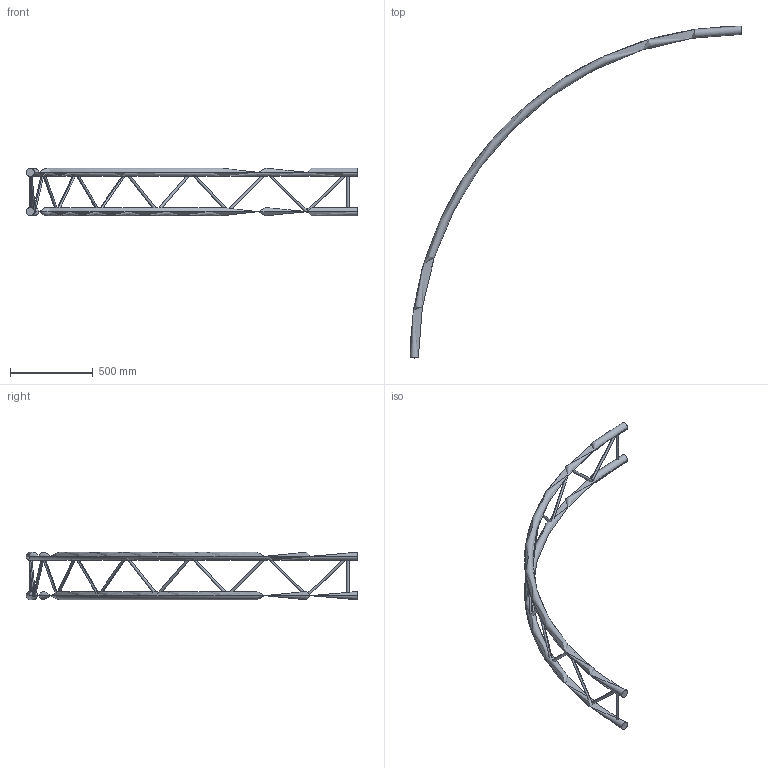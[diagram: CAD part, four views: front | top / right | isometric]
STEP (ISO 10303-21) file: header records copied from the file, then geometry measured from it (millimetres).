
FILE_DESCRIPTION (( 'STEP AP203' ), '1' );
FILE_NAME ('EXC29400V.STEP', '2009-10-26T09:21:07', ( 'CEDIA' ), ( 'CEDIA INDUSTRIE' ), 'SwSTEP 2.0', 'SolidWorks 2009', '' );
FILE_SCHEMA (( 'CONFIG_CONTROL_DESIGN' ));
Length unit declared in the file: millimetre
Products named in the file (1): EXC29400V
Bounding box: 2000 x 2000 x 287 mm (x, y, z)
Volume: 13006296.8 mm3; surface area: 1185887.3 mm2
Topology: 2 solids, 2 shells, 50 faces, 120 edges, 76 vertices
Faces by surface type: cylinder 28, plane 18, torus 4
Entity records: 2812 total; most frequent: CARTESIAN_POINT 1622, ORIENTED_EDGE 240, DIRECTION 216, EDGE_CURVE 120, AXIS2_PLACEMENT_3D 91, VERTEX_POINT 76, EDGE_LOOP 64, ADVANCED_FACE 50
